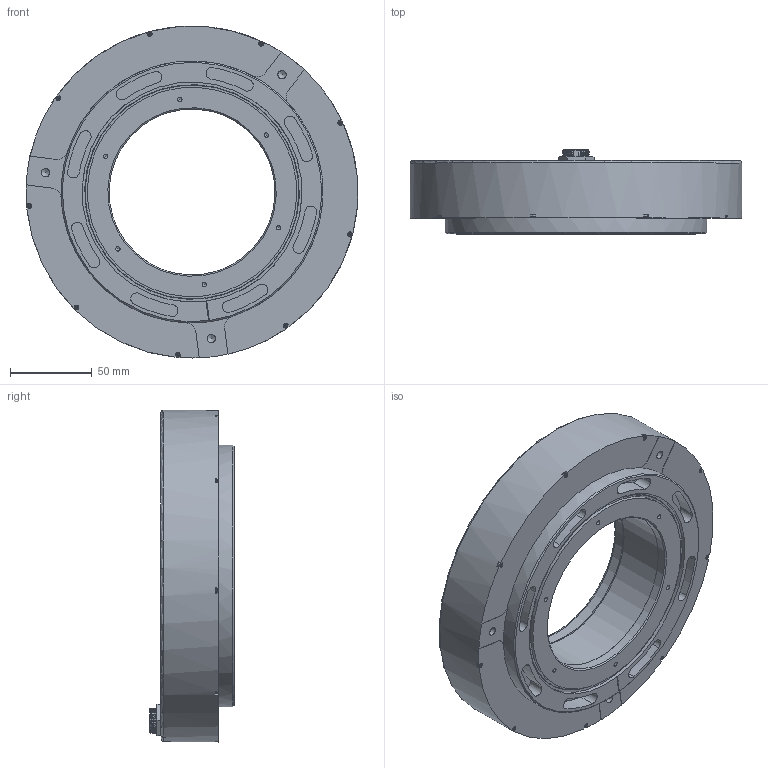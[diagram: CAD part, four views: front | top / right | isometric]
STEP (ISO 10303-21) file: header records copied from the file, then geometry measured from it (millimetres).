
FILE_DESCRIPTION (( 'STEP AP214' ), '1' );
FILE_NAME ('186-0008-01 Encoder Outline, NSH80.STEP', '2020-10-08T13:31:16', ( '' ), ( '' ), 'SwSTEP 2.0', 'SolidWorks 2019', '' );
FILE_SCHEMA (( 'AUTOMOTIVE_DESIGN' ));
Length unit declared in the file: inch
Products named in the file (1): 186-0008-01 Encoder Outline, NSH80
Bounding box: 203.14 x 51.59 x 203.2 mm (x, y, z)
Volume: 949921.6 mm3; surface area: 103953.1 mm2
Topology: 1 solids, 1 shells, 1913 faces, 4963 edges, 3263 vertices
Faces by surface type: plane 1116, bspline 523, cylinder 212, cone 59, torus 3
Full cylindrical faces by diameter (mm): 0.94 x16, 1.067 x16, 1.513 x1, 2.339 x1, 2.438 x9, 2.705 x6, 4.369 x4, 5.105 x3, 8.255 x1, 8.407 x1, 10.617 x1, 13.716 x1, 14.91 x1, 101.613 x1, 101.727 x2, 105.004 x1, 128.257 x1, 130.81 x1, 131.42 x1, 134.62 x1, 160.312 x1, 203.2 x1
Entity records: 175447 total; most frequent: CARTESIAN_POINT 108486, ORIENTED_EDGE 9578, DIRECTION 6879, EDGE_CURVE 4789, VERTEX_POINT 3202, LINE 3019, VECTOR 3019, EDGE_LOOP 2241
